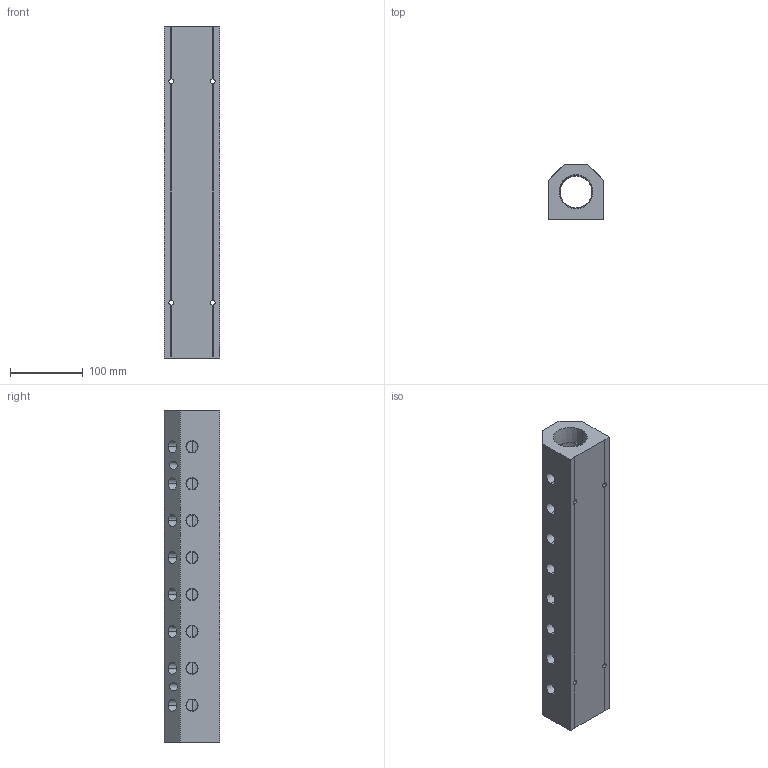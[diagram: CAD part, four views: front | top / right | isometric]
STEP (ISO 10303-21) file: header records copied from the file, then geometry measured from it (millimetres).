
FILE_DESCRIPTION (( 'STEP AP214' ), '1' );
FILE_NAME ('ALM8AB-N6N24-457B.step', '2022-02-07T09:08:28', ( '' ), ( '' ), 'SwSTEP 2.0', 'SolidWorks 2020', '' );
FILE_SCHEMA (( 'AUTOMOTIVE_DESIGN' ));
Length unit declared in the file: millimetre
Products named in the file (1): ALM8AB-N6N24-457B
Bounding box: 76.2 x 76.2 x 457 mm (x, y, z)
Volume: 1649578.2 mm3; surface area: 210918.1 mm2
Topology: 1 solids, 1 shells, 338 faces, 900 edges, 592 vertices
Faces by surface type: plane 221, bspline 63, cone 36, cylinder 18
Entity records: 18878 total; most frequent: CARTESIAN_POINT 7678, ORIENTED_EDGE 1800, DIRECTION 1346, EDGE_CURVE 900, VECTOR 658, LINE 658, VERTEX_POINT 592, EDGE_LOOP 408
